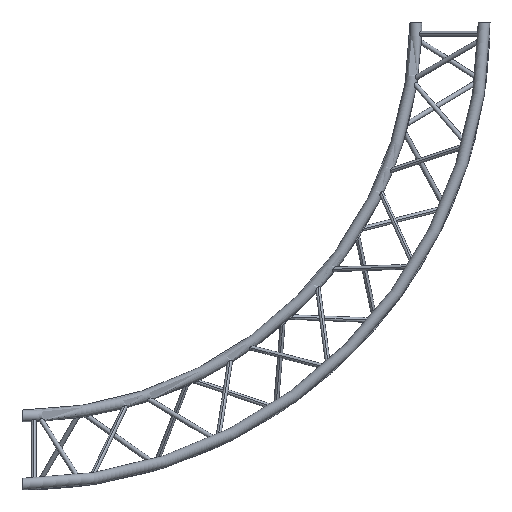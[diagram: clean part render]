
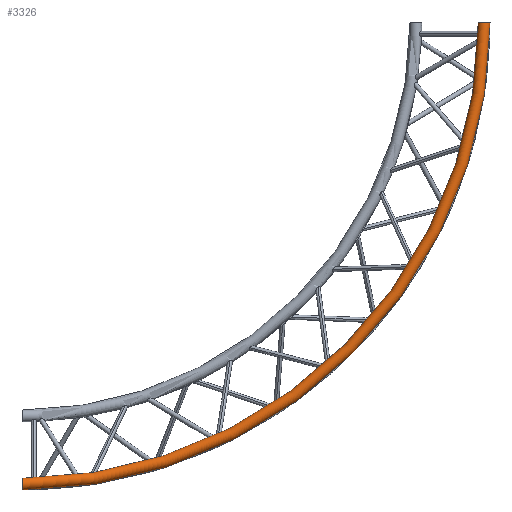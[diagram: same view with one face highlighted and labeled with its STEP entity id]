
A CAD part, front view. The second image highlights one B-rep face of the part: STEP entity #3326.
In plain terms, the highlighted toroidal (fillet/blend) face has major radius 1975 mm and minor radius 25 mm.
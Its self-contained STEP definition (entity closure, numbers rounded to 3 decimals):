
#1 = ORIENTED_EDGE ( 'NONE', *, *, #16, .T. ) ;
#2 = EDGE_LOOP ( 'NONE', ( #1, #15, #2996, #137 ) ) ;
#13 = VERTEX_POINT ( 'NONE', #2891 ) ;
#14 = EDGE_CURVE ( 'NONE', #17, #3003, #381, .T. ) ;
#15 = ORIENTED_EDGE ( 'NONE', *, *, #14, .T. ) ;
#16 = EDGE_CURVE ( 'NONE', #13, #17, #376, .T. ) ;
#17 = VERTEX_POINT ( 'NONE', #371 ) ;
#136 = VERTEX_POINT ( 'NONE', #1805 ) ;
#137 = ORIENTED_EDGE ( 'NONE', *, *, #138, .F. ) ;
#138 = EDGE_CURVE ( 'NONE', #13, #136, #1881, .T. ) ;
#139 = EDGE_CURVE ( 'NONE', #136, #3003, #1877, .T. ) ;
#371 = CARTESIAN_POINT ( 'NONE',  ( 0., -168.5, -2000. ) ) ;
#372 = DIRECTION ( 'NONE',  ( 0., 0., -1. ) ) ;
#373 = DIRECTION ( 'NONE',  ( 1., 0., 0. ) ) ;
#374 = CARTESIAN_POINT ( 'NONE',  ( 0., -168.5, -1975. ) ) ;
#375 = AXIS2_PLACEMENT_3D ( 'NONE', #374, #373, #372 ) ;
#376 = CIRCLE ( 'NONE', #375, 25. ) ;
#377 = DIRECTION ( 'NONE',  ( 0., 0., -1. ) ) ;
#378 = DIRECTION ( 'NONE',  ( 0., -1., 0. ) ) ;
#379 = CARTESIAN_POINT ( 'NONE',  ( 0., -168.5, 0. ) ) ;
#380 = AXIS2_PLACEMENT_3D ( 'NONE', #379, #378, #377 ) ;
#381 = CIRCLE ( 'NONE', #380, 2000. ) ;
#1801 = CARTESIAN_POINT ( 'NONE',  ( 0., -168.5, 0. ) ) ;
#1805 = CARTESIAN_POINT ( 'NONE',  ( 1950., -168.5, 0. ) ) ;
#1873 = DIRECTION ( 'NONE',  ( 1., 0., 0. ) ) ;
#1874 = DIRECTION ( 'NONE',  ( 0., 0., 1. ) ) ;
#1875 = CARTESIAN_POINT ( 'NONE',  ( 1975., -168.5, 0. ) ) ;
#1876 = AXIS2_PLACEMENT_3D ( 'NONE', #1875, #1874, #1873 ) ;
#1877 = CIRCLE ( 'NONE', #1876, 25. ) ;
#1878 = DIRECTION ( 'NONE',  ( 0., 0., -1. ) ) ;
#1879 = DIRECTION ( 'NONE',  ( 0., -1., 0. ) ) ;
#1880 = AXIS2_PLACEMENT_3D ( 'NONE', #1801, #1879, #1878 ) ;
#1881 = CIRCLE ( 'NONE', #1880, 1950. ) ;
#2891 = CARTESIAN_POINT ( 'NONE',  ( 0., -168.5, -1950. ) ) ;
#2996 = ORIENTED_EDGE ( 'NONE', *, *, #139, .F. ) ;
#3003 = VERTEX_POINT ( 'NONE', #6977 ) ;
#3326 = ADVANCED_FACE ( 'NONE', ( #7368 ), #7367, .T. ) ;
#6977 = CARTESIAN_POINT ( 'NONE',  ( 2000., -168.5, 0. ) ) ;
#7362 = DIRECTION ( 'NONE',  ( 0., 0., -1. ) ) ;
#7363 = DIRECTION ( 'NONE',  ( 0., -1., 0. ) ) ;
#7364 = AXIS2_PLACEMENT_3D ( 'NONE', #7366, #7363, #7362 ) ;
#7366 = CARTESIAN_POINT ( 'NONE',  ( 0., -168.5, 0. ) ) ;
#7367 = TOROIDAL_SURFACE ( 'NONE', #7364, 1975., 25. ) ;
#7368 = FACE_OUTER_BOUND ( 'NONE', #2, .T. ) ;
